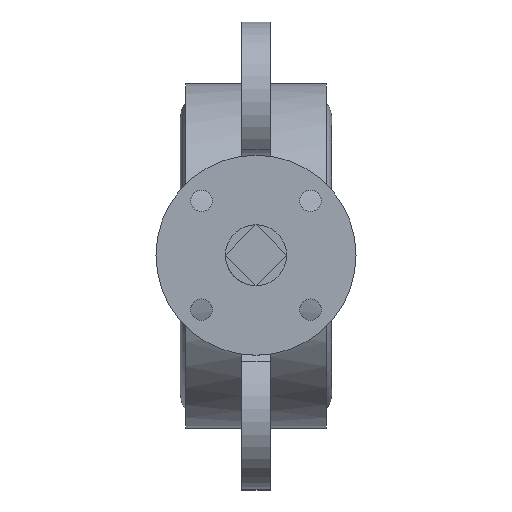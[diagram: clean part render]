
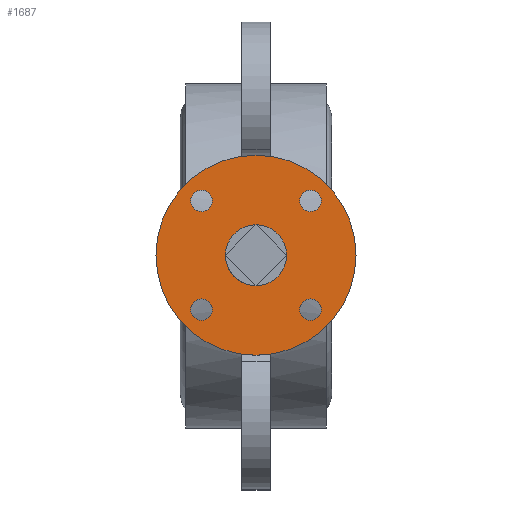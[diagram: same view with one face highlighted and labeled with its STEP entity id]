
A CAD part, top view. The second image highlights one B-rep face of the part: STEP entity #1687.
In plain terms, the highlighted planar face has unit normal (0, 0, 1).
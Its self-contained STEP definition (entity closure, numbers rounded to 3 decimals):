
#1687=ADVANCED_FACE('',(#4593,#4595,#4597,#4599,#4601,#4603),#4605,.T.);
#4593=FACE_BOUND('',#4594,.T.);
#4594=EDGE_LOOP('',(#7613));
#4595=FACE_BOUND('',#4596,.T.);
#4596=EDGE_LOOP('',(#7614));
#4597=FACE_BOUND('',#4598,.T.);
#4598=EDGE_LOOP('',(#7615));
#4599=FACE_BOUND('',#4600,.T.);
#4600=EDGE_LOOP('',(#7616));
#4601=FACE_BOUND('',#4602,.T.);
#4602=EDGE_LOOP('',(#7617));
#4603=FACE_BOUND('',#4604,.T.);
#4604=EDGE_LOOP('',(#7618));
#4605=PLANE('',#4606);
#4606=AXIS2_PLACEMENT_3D('',#4607,#4608,#4609);
#4607=CARTESIAN_POINT('',(0.,0.,143.));
#4608=DIRECTION('',(0.,0.,1.));
#4609=DIRECTION('',(0.,-1.,0.));
#7613=ORIENTED_EDGE('',*,*,#9360,.T.);
#7614=ORIENTED_EDGE('',*,*,#9568,.T.);
#7615=ORIENTED_EDGE('',*,*,#9361,.T.);
#7616=ORIENTED_EDGE('',*,*,#9362,.T.);
#7617=ORIENTED_EDGE('',*,*,#9363,.T.);
#7618=ORIENTED_EDGE('',*,*,#9364,.T.);
#9360=EDGE_CURVE('',#10822,#10822,#10823,.T.);
#9361=EDGE_CURVE('',#10824,#10824,#10825,.F.);
#9362=EDGE_CURVE('',#10826,#10826,#10827,.F.);
#9363=EDGE_CURVE('',#10828,#10828,#10829,.F.);
#9364=EDGE_CURVE('',#10830,#10830,#10831,.F.);
#9568=EDGE_CURVE('',#11161,#11161,#11162,.F.);
#10822=VERTEX_POINT('',#14113);
#10823=CIRCLE('',#14114,32.5);
#10824=VERTEX_POINT('',#14118);
#10825=CIRCLE('',#14119,3.5);
#10826=VERTEX_POINT('',#14123);
#10827=CIRCLE('',#14124,3.5);
#10828=VERTEX_POINT('',#14128);
#10829=CIRCLE('',#14129,3.5);
#10830=VERTEX_POINT('',#14133);
#10831=CIRCLE('',#14134,3.5);
#11161=VERTEX_POINT('',#14888);
#11162=CIRCLE('',#14889,9.899);
#14113=CARTESIAN_POINT('',(-32.5,0.,143.));
#14114=AXIS2_PLACEMENT_3D('',#14115,#14116,#14117);
#14115=CARTESIAN_POINT('',(0.,0.,143.));
#14116=DIRECTION('',(0.,0.,1.));
#14117=DIRECTION('',(-1.,0.,0.));
#14118=CARTESIAN_POINT('',(-21.178,-17.678,143.));
#14119=AXIS2_PLACEMENT_3D('',#14120,#14121,#14122);
#14120=CARTESIAN_POINT('',(-17.678,-17.678,143.));
#14121=DIRECTION('',(0.,0.,1.));
#14122=DIRECTION('',(-1.,0.,0.));
#14123=CARTESIAN_POINT('',(17.678,-21.178,143.));
#14124=AXIS2_PLACEMENT_3D('',#14125,#14126,#14127);
#14125=CARTESIAN_POINT('',(17.678,-17.678,143.));
#14126=DIRECTION('',(0.,0.,1.));
#14127=DIRECTION('',(0.,-1.,0.));
#14128=CARTESIAN_POINT('',(21.178,17.678,143.));
#14129=AXIS2_PLACEMENT_3D('',#14130,#14131,#14132);
#14130=CARTESIAN_POINT('',(17.678,17.678,143.));
#14131=DIRECTION('',(0.,0.,1.));
#14132=DIRECTION('',(1.,0.,0.));
#14133=CARTESIAN_POINT('',(-17.678,21.178,143.));
#14134=AXIS2_PLACEMENT_3D('',#14135,#14136,#14137);
#14135=CARTESIAN_POINT('',(-17.678,17.678,143.));
#14136=DIRECTION('',(0.,0.,1.));
#14137=DIRECTION('',(0.,1.,0.));
#14888=CARTESIAN_POINT('',(0.,-9.899,143.));
#14889=AXIS2_PLACEMENT_3D('',#14890,#14891,#14892);
#14890=CARTESIAN_POINT('',(0.,0.,143.));
#14891=DIRECTION('',(0.,0.,1.));
#14892=DIRECTION('',(0.,-1.,0.));
